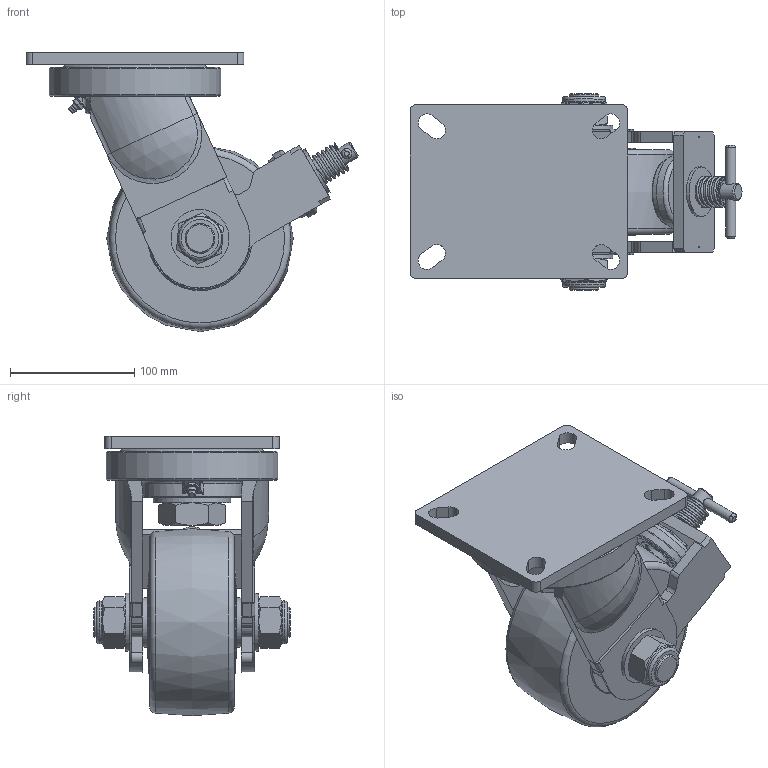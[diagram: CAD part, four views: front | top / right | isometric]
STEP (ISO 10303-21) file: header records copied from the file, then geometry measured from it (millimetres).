
FILE_DESCRIPTION((''),'2;1');
FILE_NAME('C:\Documents and Settings\Administrator\바탕 화면\뜸부기\신제품 진행_GL_GLH_GXT\GXT-150BSF HUD\GXT-150-BSF-HUD.stp','2011-06-23T09:18:54',('Administrator'),(''),'Autodesk Inventor 2009','Autodesk Inventor 2009','');
FILE_SCHEMA(('AUTOMOTIVE_DESIGN { 1 0 10303 214 1 1 1 1 }'));
Length unit declared in the file: millimetre
Products named in the file (1): GXT-150-BSF-HUD
Bounding box: 266.77 x 158 x 224.54 mm (x, y, z)
Volume: 2223816.6 mm3; surface area: 318862.3 mm2
Topology: 16 solids, 17 shells, 515 faces, 1220 edges, 775 vertices
Faces by surface type: plane 237, cylinder 150, bspline 49, cone 44, torus 31, sphere 4
Full cylindrical faces by diameter (mm): 1 x4, 5 x1, 6 x1, 8 x2, 8.2 x1, 11.7 x1, 12.2 x2, 13 x1, 14 x1, 16.2 x1, 18.2 x1, 20 x1, 21 x2, 22 x2, 23.5 x1, 24 x6, 24.3 x2, 24.5 x2, 26 x2, 27 x1, 30 x6, 30.5 x1, 32 x1, 34.4 x2, 35 x3, 40 x3, 40.667 x4, 42 x1, 46.7 x2, 48.5 x1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
Entity records: 18710 total; most frequent: CARTESIAN_POINT 7681, DIRECTION 2301, ORIENTED_EDGE 2024, EDGE_CURVE 1012, AXIS2_PLACEMENT_3D 924, EDGE_LOOP 770, VERTEX_POINT 733, FACE_OUTER_BOUND 515
